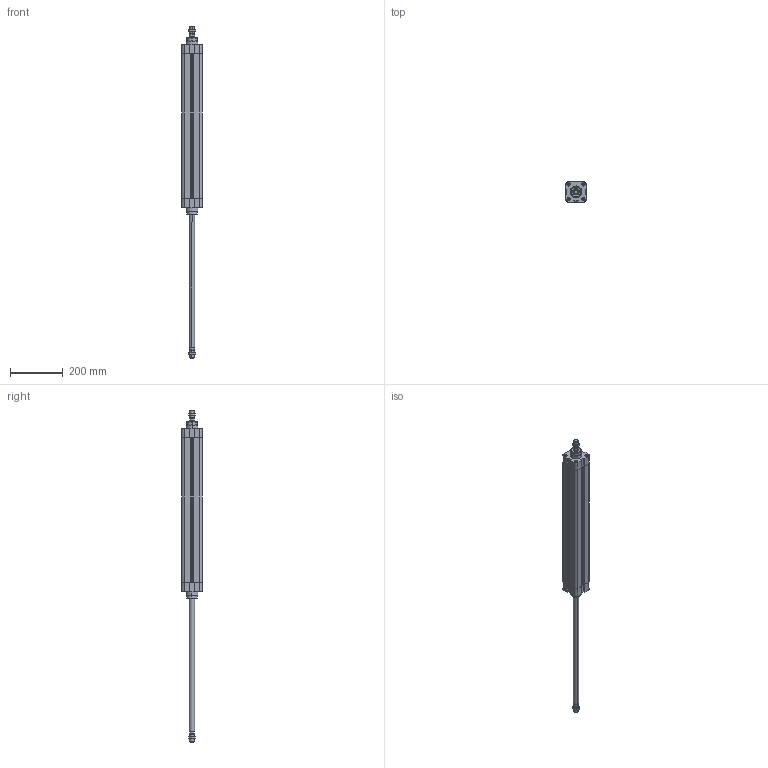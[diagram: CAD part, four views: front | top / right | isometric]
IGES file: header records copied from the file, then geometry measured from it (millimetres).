
Global section: file name: No Iges File Name specified; native system: Autodesk Inventor 2010; preprocessor: AutoDesk Inventor Iges Exporter R2010; author: rivolro1; date: 20090707.105823; units: millimetre
Bounding box: 77.5 x 77.5 x 1259 mm (x, y, z)
Volume: 2405907.4 mm3; surface area: 474843.9 mm2
Topology: 6 solids, 6 shells, 343 faces, 810 edges, 508 vertices
Faces by surface type: plane 137, bspline 86, cylinder 58, cone 38, revolution 20, torus 4
